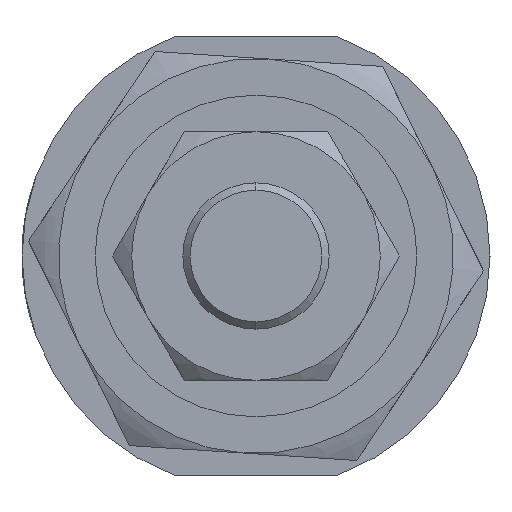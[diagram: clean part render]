
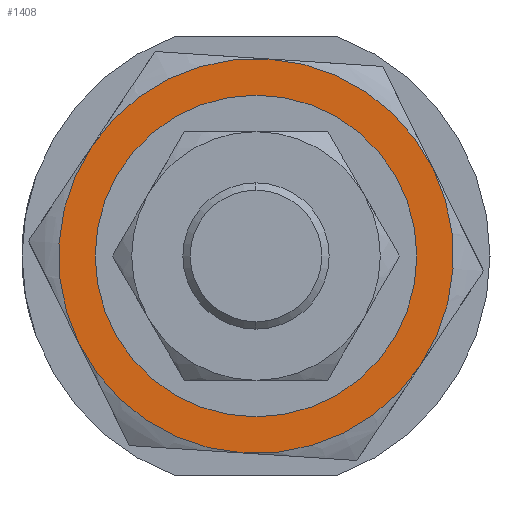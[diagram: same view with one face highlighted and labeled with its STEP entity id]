
A CAD part, left-side view. The second image highlights one B-rep face of the part: STEP entity #1408.
In plain terms, the highlighted planar face has unit normal (-1, 0, 0) as drawn and (0, 0, -1) by its records, which use the part's own axes.
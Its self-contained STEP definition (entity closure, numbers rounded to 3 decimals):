
#16 = ORIENTED_EDGE ( 'NONE', *, *, #2741, .T. ) ;
#227 = CIRCLE ( 'NONE', #2853, 13.5 ) ;
#233 = CARTESIAN_POINT ( 'NONE',  ( 0., 0., -5. ) ) ;
#304 = CARTESIAN_POINT ( 'NONE',  ( 0., 0., -5. ) ) ;
#336 = ORIENTED_EDGE ( 'NONE', *, *, #1511, .T. ) ;
#354 = EDGE_CURVE ( 'NONE', #1227, #391, #2804, .T. ) ;
#391 = VERTEX_POINT ( 'NONE', #877 ) ;
#474 = AXIS2_PLACEMENT_3D ( 'NONE', #3149, #808, #478 ) ;
#478 = DIRECTION ( 'NONE',  ( 1., 0., 0. ) ) ;
#594 = CIRCLE ( 'NONE', #3206, 10. ) ;
#627 = VERTEX_POINT ( 'NONE', #1777 ) ;
#640 = DIRECTION ( 'NONE',  ( 1., 0., 0. ) ) ;
#649 = DIRECTION ( 'NONE',  ( 1., 0., 0. ) ) ;
#749 = CARTESIAN_POINT ( 'NONE',  ( 0., 0., -5. ) ) ;
#755 = DIRECTION ( 'NONE',  ( 1., 0., 0. ) ) ;
#772 = DIRECTION ( 'NONE',  ( 0., 0., 1. ) ) ;
#808 = DIRECTION ( 'NONE',  ( 0., 0., 1. ) ) ;
#809 = CIRCLE ( 'NONE', #1299, 13.5 ) ;
#870 = DIRECTION ( 'NONE',  ( 0., 0., 1. ) ) ;
#877 = CARTESIAN_POINT ( 'NONE',  ( 6.75, -11.691, -5. ) ) ;
#899 = ORIENTED_EDGE ( 'NONE', *, *, #2213, .F. ) ;
#909 = VERTEX_POINT ( 'NONE', #1222 ) ;
#926 = AXIS2_PLACEMENT_3D ( 'NONE', #1109, #2215, #1212 ) ;
#1020 = ORIENTED_EDGE ( 'NONE', *, *, #3187, .F. ) ;
#1037 = AXIS2_PLACEMENT_3D ( 'NONE', #749, #2845, #1094 ) ;
#1094 = DIRECTION ( 'NONE',  ( 1., 0., 0. ) ) ;
#1103 = DIRECTION ( 'NONE',  ( 1., 0., 0. ) ) ;
#1109 = CARTESIAN_POINT ( 'NONE',  ( 0., 0., -5. ) ) ;
#1151 = CARTESIAN_POINT ( 'NONE',  ( 0., 0., -5. ) ) ;
#1212 = DIRECTION ( 'NONE',  ( 1., 0., 0. ) ) ;
#1214 = ORIENTED_EDGE ( 'NONE', *, *, #3006, .F. ) ;
#1222 = CARTESIAN_POINT ( 'NONE',  ( -10., 0., -5. ) ) ;
#1227 = VERTEX_POINT ( 'NONE', #1441 ) ;
#1299 = AXIS2_PLACEMENT_3D ( 'NONE', #233, #772, #1975 ) ;
#1408 = ADVANCED_FACE ( 'NONE', ( #1912, #1619 ), #2893, .F. ) ;
#1418 = ORIENTED_EDGE ( 'NONE', *, *, #2967, .F. ) ;
#1441 = CARTESIAN_POINT ( 'NONE',  ( -6.75, -11.691, -5. ) ) ;
#1462 = CARTESIAN_POINT ( 'NONE',  ( 13.5, 0., -5. ) ) ;
#1492 = AXIS2_PLACEMENT_3D ( 'NONE', #304, #1593, #1973 ) ;
#1511 = EDGE_CURVE ( 'NONE', #1648, #909, #594, .T. ) ;
#1593 = DIRECTION ( 'NONE',  ( 0., 0., 1. ) ) ;
#1619 = FACE_OUTER_BOUND ( 'NONE', #2570, .T. ) ;
#1631 = CARTESIAN_POINT ( 'NONE',  ( -6.75, 11.691, -5. ) ) ;
#1648 = VERTEX_POINT ( 'NONE', #2812 ) ;
#1674 = DIRECTION ( 'NONE',  ( 0., 0., 1. ) ) ;
#1709 = CARTESIAN_POINT ( 'NONE',  ( 0., 0., -5. ) ) ;
#1739 = VERTEX_POINT ( 'NONE', #2029 ) ;
#1763 = DIRECTION ( 'NONE',  ( 0., 0., 1. ) ) ;
#1777 = CARTESIAN_POINT ( 'NONE',  ( -13.5, 0., -5. ) ) ;
#1912 = FACE_BOUND ( 'NONE', #2173, .T. ) ;
#1973 = DIRECTION ( 'NONE',  ( 1., 0., 0. ) ) ;
#1975 = DIRECTION ( 'NONE',  ( 1., 0., 0. ) ) ;
#2029 = CARTESIAN_POINT ( 'NONE',  ( 6.75, 11.691, -5. ) ) ;
#2051 = CIRCLE ( 'NONE', #1492, 13.5 ) ;
#2149 = CARTESIAN_POINT ( 'NONE',  ( 0., 0., -5. ) ) ;
#2173 = EDGE_LOOP ( 'NONE', ( #336, #16 ) ) ;
#2213 = EDGE_CURVE ( 'NONE', #391, #3020, #2879, .T. ) ;
#2215 = DIRECTION ( 'NONE',  ( 0., 0., 1. ) ) ;
#2245 = CIRCLE ( 'NONE', #474, 10. ) ;
#2332 = AXIS2_PLACEMENT_3D ( 'NONE', #1709, #870, #640 ) ;
#2372 = ORIENTED_EDGE ( 'NONE', *, *, #354, .F. ) ;
#2417 = AXIS2_PLACEMENT_3D ( 'NONE', #2149, #1763, #755 ) ;
#2423 = ORIENTED_EDGE ( 'NONE', *, *, #3021, .F. ) ;
#2468 = CARTESIAN_POINT ( 'NONE',  ( 0., 0., -5. ) ) ;
#2570 = EDGE_LOOP ( 'NONE', ( #2423, #899, #2372, #1214, #1418, #1020 ) ) ;
#2741 = EDGE_CURVE ( 'NONE', #909, #1648, #2245, .T. ) ;
#2804 = CIRCLE ( 'NONE', #1037, 13.5 ) ;
#2807 = DIRECTION ( 'NONE',  ( 0., 0., 1. ) ) ;
#2812 = CARTESIAN_POINT ( 'NONE',  ( 10., 0., -5. ) ) ;
#2845 = DIRECTION ( 'NONE',  ( 0., 0., 1. ) ) ;
#2853 = AXIS2_PLACEMENT_3D ( 'NONE', #2468, #2807, #649 ) ;
#2879 = CIRCLE ( 'NONE', #2332, 13.5 ) ;
#2893 = PLANE ( 'NONE',  #2417 ) ;
#2967 = EDGE_CURVE ( 'NONE', #3035, #627, #227, .T. ) ;
#3006 = EDGE_CURVE ( 'NONE', #627, #1227, #809, .T. ) ;
#3020 = VERTEX_POINT ( 'NONE', #1462 ) ;
#3021 = EDGE_CURVE ( 'NONE', #3020, #1739, #3166, .T. ) ;
#3035 = VERTEX_POINT ( 'NONE', #1631 ) ;
#3149 = CARTESIAN_POINT ( 'NONE',  ( 0., 0., -5. ) ) ;
#3166 = CIRCLE ( 'NONE', #926, 13.5 ) ;
#3187 = EDGE_CURVE ( 'NONE', #1739, #3035, #2051, .T. ) ;
#3206 = AXIS2_PLACEMENT_3D ( 'NONE', #1151, #1674, #1103 ) ;
